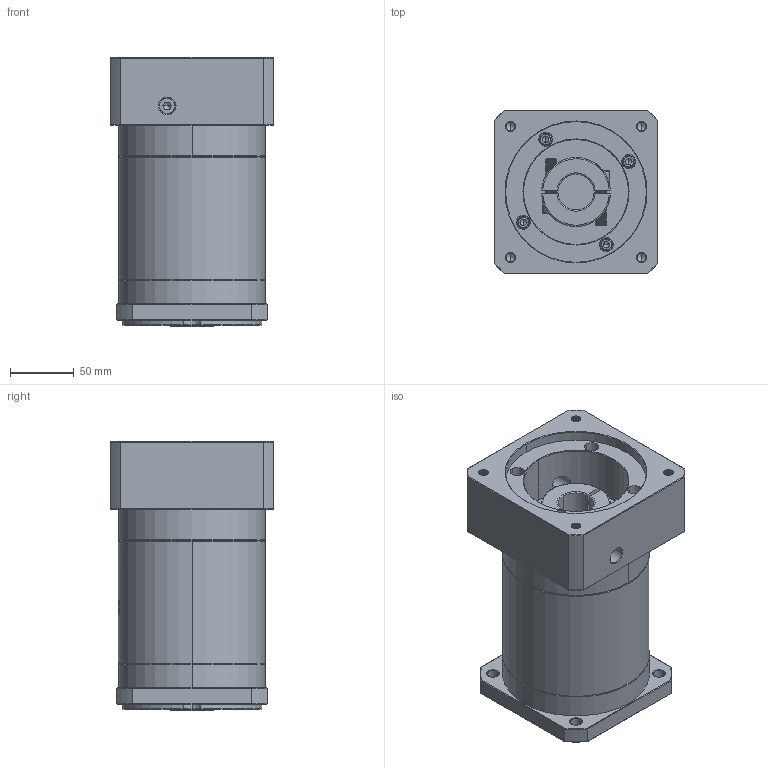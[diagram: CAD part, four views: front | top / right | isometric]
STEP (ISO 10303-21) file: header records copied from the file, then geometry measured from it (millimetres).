
FILE_DESCRIPTION (( 'STEP AP214' ), '1' );
FILE_NAME ('ZF120A-K25-L3-P2-28-110-145-M8.step', '2023-08-27T04:54:13', ( '' ), ( '' ), 'SwSTEP 2.0', 'SolidWorks 2016', '' );
FILE_SCHEMA (( 'AUTOMOTIVE_DESIGN' ));
Length unit declared in the file: millimetre
Products named in the file (1): ZF120A-K25-L3-P2-28-110-145-M8
Bounding box: 128 x 128 x 210.5 mm (x, y, z)
Volume: 2202077 mm3; surface area: 199098.3 mm2
Topology: 6 solids, 6 shells, 2158 faces, 5724 edges, 3670 vertices
Faces by surface type: plane 1026, bspline 410, cylinder 387, cone 315, torus 20
Entity records: 116850 total; most frequent: CARTESIAN_POINT 44736, ORIENTED_EDGE 11392, DIRECTION 8261, EDGE_CURVE 5696, VERTEX_POINT 3670, LINE 3035, VECTOR 3035, AXIS2_PLACEMENT_3D 2613
